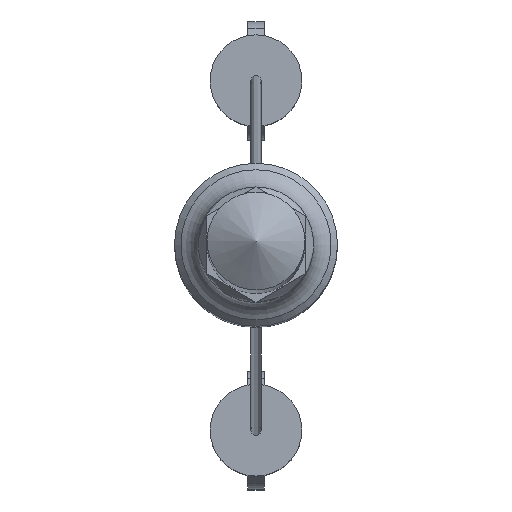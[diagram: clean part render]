
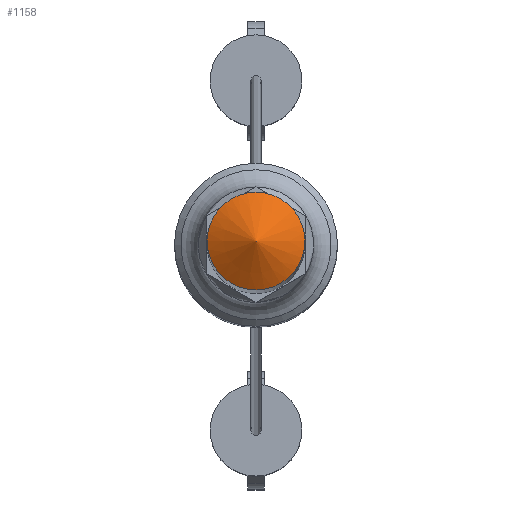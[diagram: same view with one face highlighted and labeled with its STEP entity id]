
A CAD part, top view. The second image highlights one B-rep face of the part: STEP entity #1158.
In plain terms, the highlighted conical face has half-angle 60 degrees and reference radius 2.4 mm.
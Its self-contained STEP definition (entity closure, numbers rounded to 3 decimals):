
#24 = CARTESIAN_POINT ( 'NONE',  ( 0., 0., 98.614 ) ) ;
#55 = EDGE_CURVE ( 'NONE', #917, #917, #2047, .T. ) ;
#154 = DIRECTION ( 'NONE',  ( -1., 0., 0. ) ) ;
#917 = VERTEX_POINT ( 'NONE', #1576 ) ;
#1158 = ADVANCED_FACE ( 'NONE', ( #2707 ), #1872, .T. ) ;
#1332 = AXIS2_PLACEMENT_3D ( 'NONE', #24, #1943, #2585 ) ;
#1576 = CARTESIAN_POINT ( 'NONE',  ( 2.4, 0., 98.614 ) ) ;
#1637 = CARTESIAN_POINT ( 'NONE',  ( 0., 0., 98.614 ) ) ;
#1872 = CONICAL_SURFACE ( 'NONE', #2537, 2.4, 1.047 ) ;
#1943 = DIRECTION ( 'NONE',  ( 0., 0., 1. ) ) ;
#2029 = EDGE_LOOP ( 'NONE', ( #2651 ) ) ;
#2047 = CIRCLE ( 'NONE', #1332, 2.4 ) ;
#2509 = DIRECTION ( 'NONE',  ( 0., 0., -1. ) ) ;
#2537 = AXIS2_PLACEMENT_3D ( 'NONE', #1637, #2509, #154 ) ;
#2585 = DIRECTION ( 'NONE',  ( 1., 0., 0. ) ) ;
#2651 = ORIENTED_EDGE ( 'NONE', *, *, #55, .T. ) ;
#2707 = FACE_OUTER_BOUND ( 'NONE', #2029, .T. ) ;
